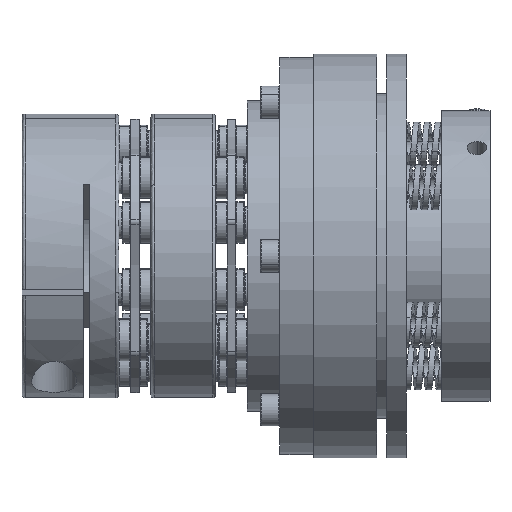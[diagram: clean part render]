
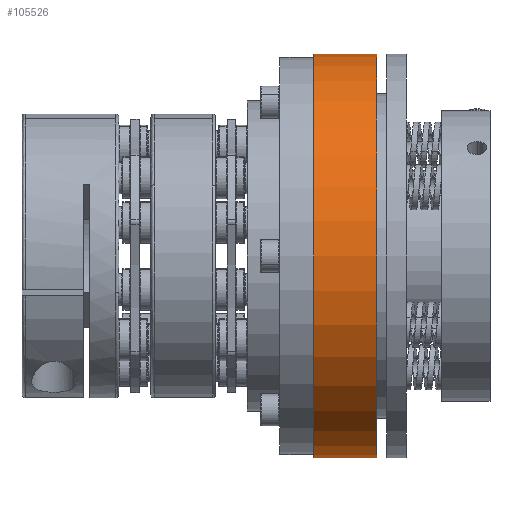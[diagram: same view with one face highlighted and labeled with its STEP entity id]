
A CAD part, front view. The second image highlights one B-rep face of the part: STEP entity #105526.
In plain terms, the highlighted cylindrical face has radius 62.5 mm (diameter 125 mm), a partial arc.
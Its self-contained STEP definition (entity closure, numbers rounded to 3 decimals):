
#2389 = CYLINDRICAL_SURFACE ( 'NONE', #65911, 62.5 ) ;
#3485 = DIRECTION ( 'NONE',  ( -1., 0., 0. ) ) ;
#7964 = EDGE_CURVE ( 'NONE', #52664, #25779, #32531, .T. ) ;
#8924 = DIRECTION ( 'NONE',  ( -1., 0., 0. ) ) ;
#12722 = CARTESIAN_POINT ( 'NONE',  ( -75.1, 0., -62.5 ) ) ;
#13419 = VERTEX_POINT ( 'NONE', #70440 ) ;
#15899 = LINE ( 'NONE', #45453, #96825 ) ;
#21215 = CARTESIAN_POINT ( 'NONE',  ( -35.1, 0., 62.5 ) ) ;
#23059 = ORIENTED_EDGE ( 'NONE', *, *, #109637, .F. ) ;
#25779 = VERTEX_POINT ( 'NONE', #39059 ) ;
#26622 = AXIS2_PLACEMENT_3D ( 'NONE', #85029, #34306, #85400 ) ;
#28870 = ORIENTED_EDGE ( 'NONE', *, *, #31045, .T. ) ;
#30849 = CIRCLE ( 'NONE', #26622, 62.5 ) ;
#31045 = EDGE_CURVE ( 'NONE', #52664, #37650, #100215, .T. ) ;
#32531 = LINE ( 'NONE', #12722, #94748 ) ;
#34306 = DIRECTION ( 'NONE',  ( -1., 0., 0. ) ) ;
#34528 = CARTESIAN_POINT ( 'NONE',  ( -35.1, 0., 0. ) ) ;
#37650 = VERTEX_POINT ( 'NONE', #21215 ) ;
#39059 = CARTESIAN_POINT ( 'NONE',  ( -54.6, 0., -62.5 ) ) ;
#45453 = CARTESIAN_POINT ( 'NONE',  ( -75.1, 0., 62.5 ) ) ;
#46490 = DIRECTION ( 'NONE',  ( -1., 0., 0. ) ) ;
#48579 = ORIENTED_EDGE ( 'NONE', *, *, #104925, .T. ) ;
#48825 = CARTESIAN_POINT ( 'NONE',  ( -35.1, 0., -62.5 ) ) ;
#52664 = VERTEX_POINT ( 'NONE', #48825 ) ;
#52716 = DIRECTION ( 'NONE',  ( 0., 0., 1. ) ) ;
#61280 = DIRECTION ( 'NONE',  ( -1., 0., 0. ) ) ;
#65911 = AXIS2_PLACEMENT_3D ( 'NONE', #103431, #61280, #52716 ) ;
#70440 = CARTESIAN_POINT ( 'NONE',  ( -54.6, 0., 62.5 ) ) ;
#85029 = CARTESIAN_POINT ( 'NONE',  ( -54.6, 0., 0. ) ) ;
#85400 = DIRECTION ( 'NONE',  ( 0., 0., 1. ) ) ;
#86292 = ORIENTED_EDGE ( 'NONE', *, *, #7964, .F. ) ;
#89991 = AXIS2_PLACEMENT_3D ( 'NONE', #34528, #8924, #94863 ) ;
#91277 = FACE_OUTER_BOUND ( 'NONE', #93311, .T. ) ;
#93311 = EDGE_LOOP ( 'NONE', ( #86292, #28870, #48579, #23059 ) ) ;
#94748 = VECTOR ( 'NONE', #46490, 1000. ) ;
#94863 = DIRECTION ( 'NONE',  ( 0., 0., 1. ) ) ;
#96825 = VECTOR ( 'NONE', #3485, 1000. ) ;
#100215 = CIRCLE ( 'NONE', #89991, 62.5 ) ;
#103431 = CARTESIAN_POINT ( 'NONE',  ( -75.1, 0., 0. ) ) ;
#104925 = EDGE_CURVE ( 'NONE', #37650, #13419, #15899, .T. ) ;
#105526 = ADVANCED_FACE ( 'NONE', ( #91277 ), #2389, .T. ) ;
#109637 = EDGE_CURVE ( 'NONE', #25779, #13419, #30849, .T. ) ;
